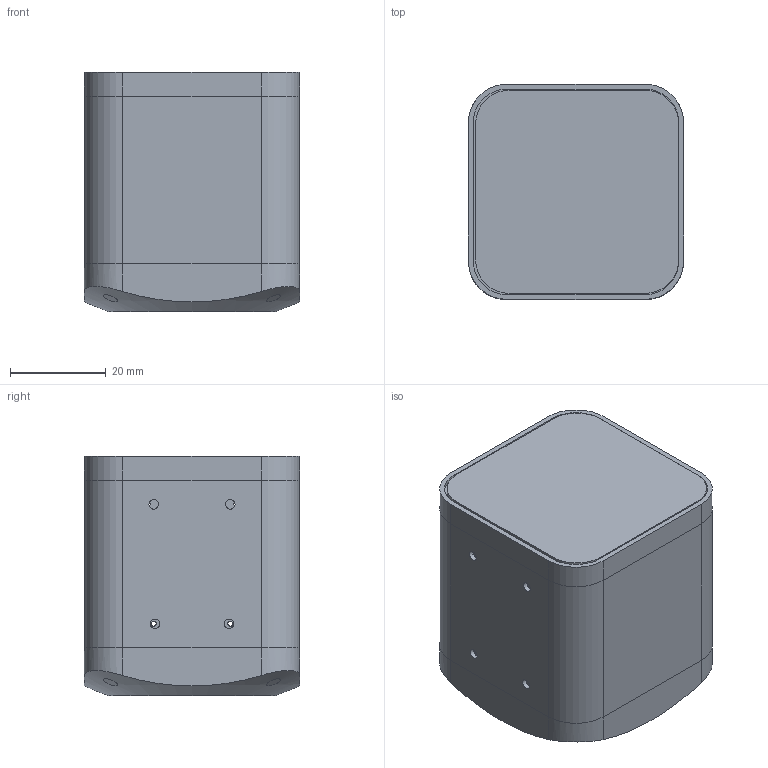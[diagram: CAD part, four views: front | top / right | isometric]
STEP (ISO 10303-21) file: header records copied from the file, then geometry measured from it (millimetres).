
FILE_DESCRIPTION(('FreeCAD Model'),'2;1');
FILE_NAME('Open CASCADE Shape Model','2026-06-25T20:13:07',(''),(''), 'Open CASCADE STEP processor 7.8','FreeCAD','Unknown');
FILE_SCHEMA(('AUTOMOTIVE_DESIGN { 1 0 10303 214 1 1 1 1 }'));
Length unit declared in the file: millimetre
Products named in the file (5): Assembly; cover; racket; middle; top
Assembly tree (4 placements, depth 2):
  Assembly
    cover
    racket
    middle
    top
Bounding box: 45 x 45 x 50 mm (x, y, z)
Volume: 14581.4 mm3; surface area: 26180.1 mm2
Topology: 4 solids, 4 shells, 667 faces, 1534 edges, 886 vertices
Faces by surface type: bspline 364, cylinder 201, plane 92, sphere 6, cone 4
Full cylindrical faces by diameter (mm): 1 x4, 1.5 x6, 1.619 x104, 2 x8, 3 x4, 4 x4, 32 x1
Entity records: 57829 total; most frequent: CARTESIAN_POINT 45548, ORIENTED_EDGE 3060, EDGE_CURVE 1530, DIRECTION 1436, B_SPLINE_CURVE_WITH_KNOTS 915, VERTEX_POINT 886, FACE_BOUND 732, EDGE_LOOP 732
